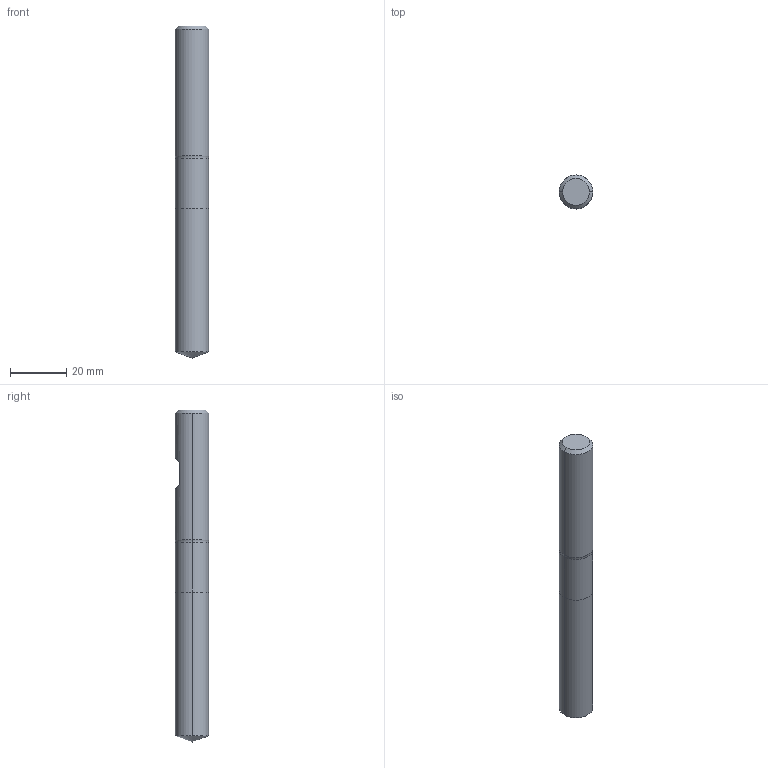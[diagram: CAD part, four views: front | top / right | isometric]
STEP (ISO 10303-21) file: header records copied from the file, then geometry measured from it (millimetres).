
FILE_DESCRIPTION (( 'STEP AP214' ), '1' );
FILE_NAME ('905.118.10_3D-model.step', '2022-02-24T18:46:46', ( '' ), ( '' ), 'SwSTEP 2.0', 'SolidWorks 2020', '' );
FILE_SCHEMA (( 'AUTOMOTIVE_DESIGN' ));
Length unit declared in the file: millimetre
Products named in the file (3): CUT-3D^Baugr21; NOCUT-3D^Baugr21; 905.118.10_3D-model
Assembly tree (2 placements, depth 2):
  905.118.10_3D-model
    CUT-3D^Baugr21
    NOCUT-3D^Baugr21
Bounding box: 12 x 12 x 118 mm (x, y, z)
Volume: 12812.6 mm3; surface area: 4743.9 mm2
Topology: 2 solids, 2 shells, 18 faces, 34 edges, 19 vertices
Faces by surface type: cylinder 6, plane 6, cone 4, torus 2
Entity records: 558 total; most frequent: DIRECTION 98, CARTESIAN_POINT 83, ORIENTED_EDGE 64, AXIS2_PLACEMENT_3D 42, EDGE_CURVE 32, EDGE_LOOP 19, VERTEX_POINT 19, ADVANCED_FACE 18
